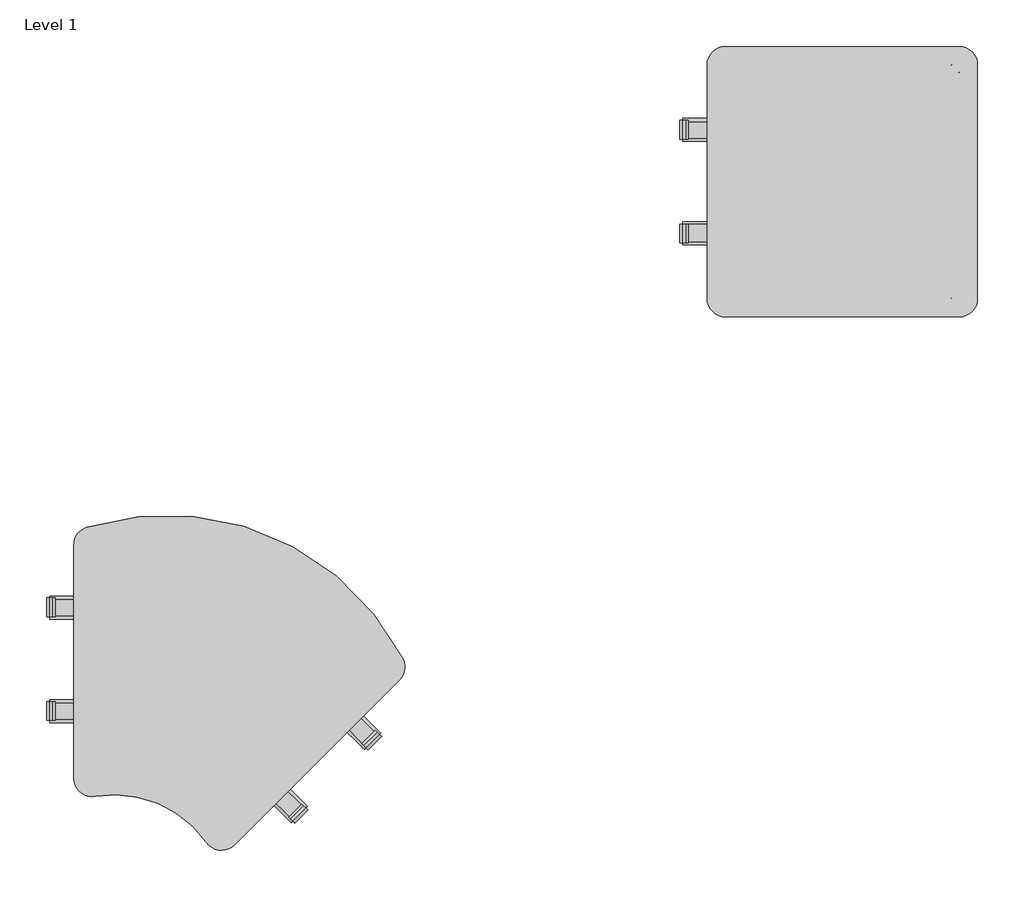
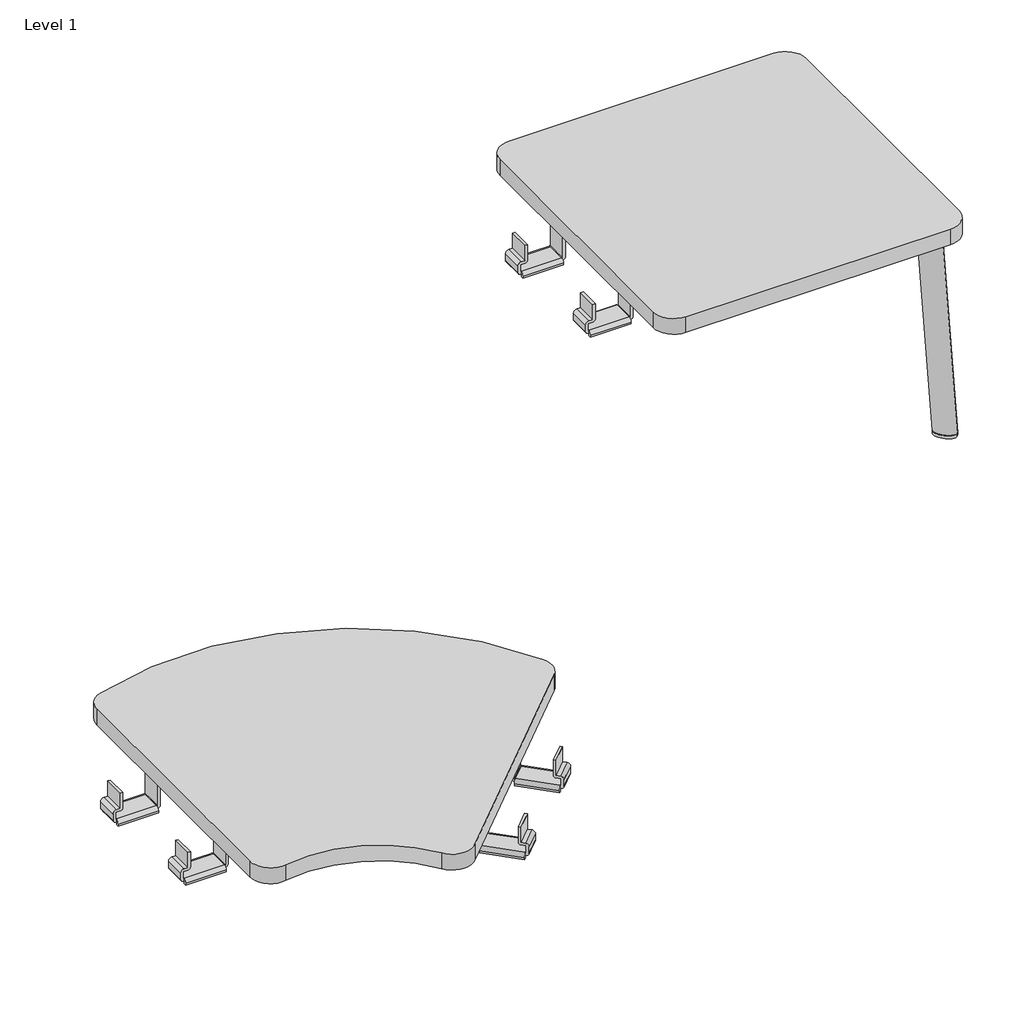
# One storey: 2 furniture elements.
"""IFC4 building model written with IfcOpenShell, lengths in millimetres."""

from ifc_helpers import new_model, si_unit, origin, place, context, project, spatial, transform, mapped, element, save
from components import furniture_9b92ef53, sol4_lke_22_22_c15cc27e

model = new_model("IFC4")

# Units and contexts
model_context = context("Model", 3, world=origin())
ifc_project = project(units=[si_unit("LENGTHUNIT", "METRE", prefix="MILLI")], contexts=[model_context])

# Site, building, storey
site = spatial("IfcSite", under=ifc_project)
building = spatial("IfcBuilding", under=site)
storey = spatial("IfcBuildingStorey", under=building, Name="Level 1", Elevation=0.0)

# Furniture
placement = place(None, origin())
furniture_shape = furniture_9b92ef53(model_context)
element("IfcFurniture", 1, ObjectType="Krug-Solis-Connecting-45Deg_Corner : SOL4-LKCRR45", at=placement, inside=storey, context=model_context, shape_type="MappedRepresentation", body=[
    mapped(furniture_shape, transform((904.2207161, 2585.2502961, 0.0), x_axis=(1.0, 0.0, 0.0), y_axis=(0.0, 1.0, 0.0), z_axis=(0.0, 0.0, 1.0))),
])
sol4_lke_22_22_shape = sol4_lke_22_22_c15cc27e(model_context)
element("IfcFurniture", 2, ObjectType="Krug-Solis-End_Table : SOL4-LKE-22-22", at=placement, inside=storey, context=model_context, shape_type="MappedRepresentation", body=[
    mapped(sol4_lke_22_22_shape, transform((2213.8443908, 3572.7597105, 0.0), x_axis=(1.0, 0.0, 0.0), y_axis=(0.0, 1.0, 0.0), z_axis=(0.0, 0.0, 1.0))),
])

save(model, "model.ifc")
